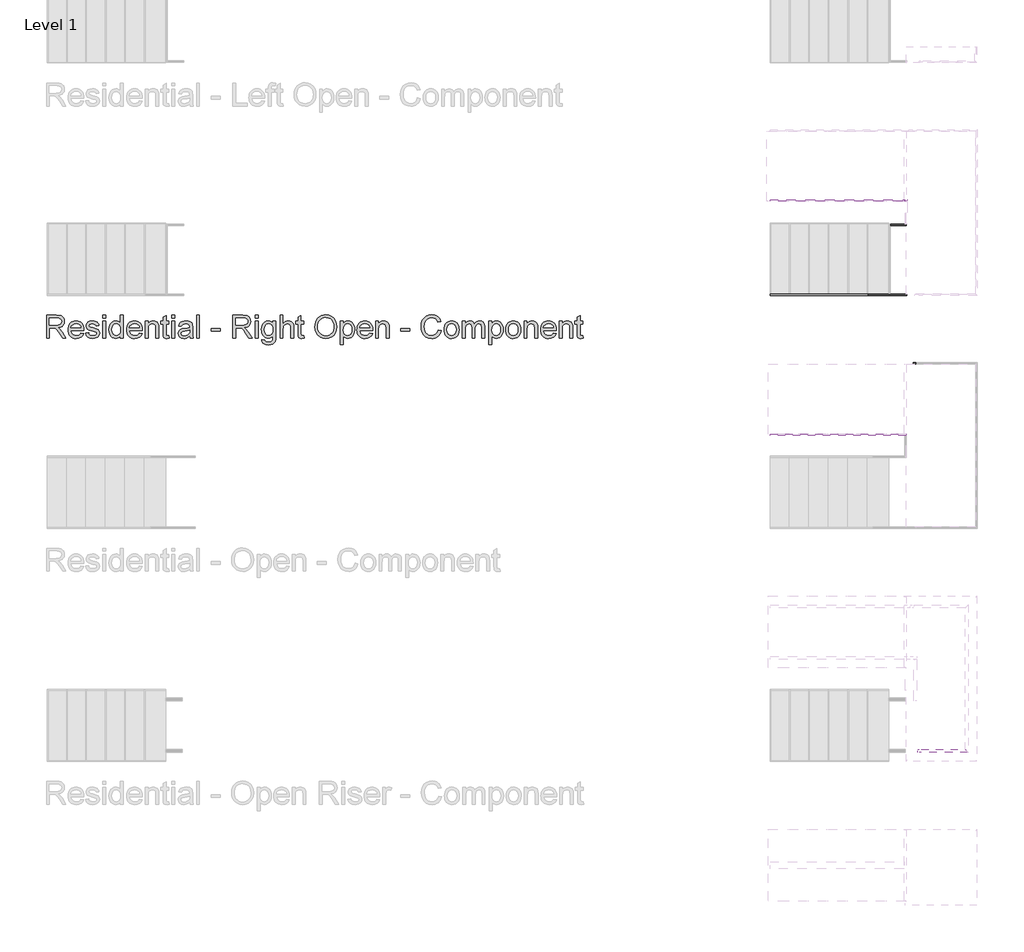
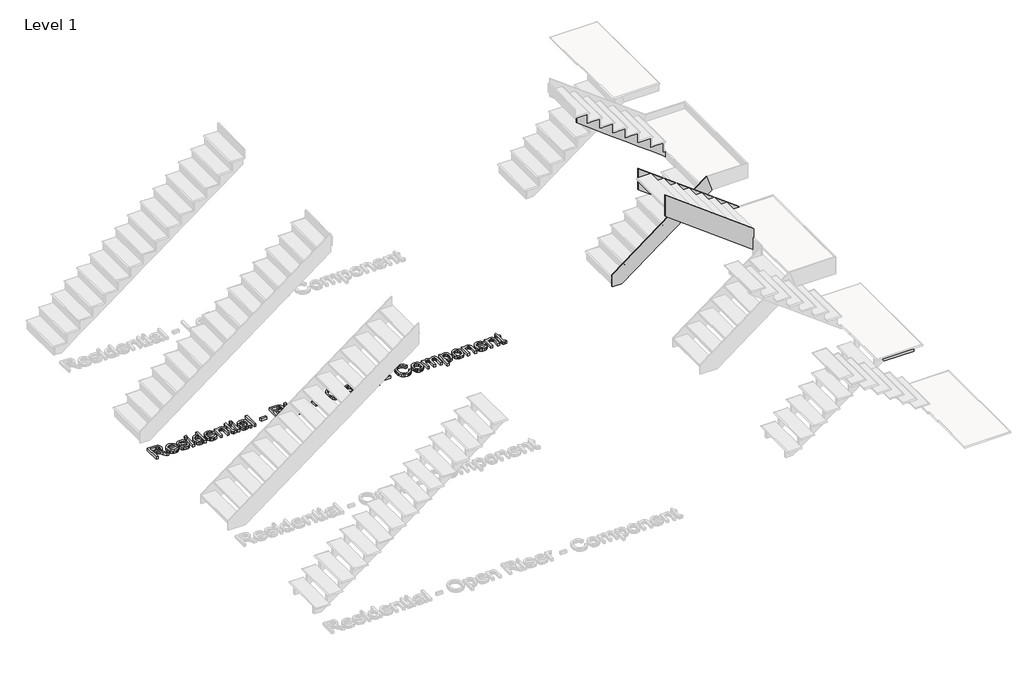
# One storey, part 8 of 26: 6 members, 1 proxy.
"""IFC4 building model written with IfcOpenShell, lengths in millimetres."""

from ifc_helpers import new_model, si_unit, frame, origin, origin_with_axes, place, context, project, spatial, polyline, outline, extrude, faceted_brep, element, save

model = new_model("IFC4")

# Units and contexts
model_context = context("Model", 3, world=origin())
ifc_project = project(units=[si_unit("LENGTHUNIT", "METRE", prefix="MILLI")], contexts=[model_context])

# Site, building, storey
site = spatial("IfcSite", under=ifc_project)
building = spatial("IfcBuilding", under=site)
storey = spatial("IfcBuildingStorey", under=building, Name="Level 1", Elevation=0.0)

# Proxy
placement = place(None, origin())
element("IfcBuildingElementProxy", 1, Name="12\" Arial", ObjectType="12\" Arial", at=placement, inside=storey, context=model_context, shape_type="SweptSolid", body=[
    extrude(outline(polyline([(-27238.310174, -2715.1232123), (-27238.310174, -2415.012443), (-27108.9899817, -2415.012443), (-27074.2328904, -2417.0365055), (-27048.9458471, -2423.108693), (-27030.4636837, -2434.3188854), (-27016.1212317, -2451.7569623), (-27006.9167846, -2473.380544), (-27003.8486356, -2497.1472507), (-27008.9316885, -2526.7113854), (-27024.1808471, -2551.219943), (-27035.7321993, -2561.2074551), (-27050.0540442, -2569.1892219), (-27087.0092125, -2579.13552), (-27065.6878664, -2595.1814815), (-27035.2811356, -2633.7943661), (-26985.238251, -2715.1232123), (-27028.8334433, -2715.1232123), (-27067.8859433, -2652.9176354), (-27096.0945971, -2611.7403277), (-27115.913924, -2592.2873469), (-27133.7549817, -2585.1435969), (-27155.5159433, -2583.8247507), (-27200.7963279, -2583.8247507), (-27200.7963279, -2715.1232123), (-27238.310174, -2715.1232123)]), holes=[polyline([(-27200.7963279, -2546.3109046), (-27116.8297894, -2546.3109046), (-27092.7150539, -2544.9828998), (-27074.003924, -2540.9988854), (-27059.9179144, -2534.0932604), (-27049.6785394, -2524.0004238), (-27043.4414962, -2511.7919382), (-27041.3624817, -2498.5393661), (-27045.3281789, -2480.2403757), (-27057.2252702, -2465.494943), (-27077.6948615, -2455.7684527), (-27107.3780587, -2452.5262892), (-27200.7963279, -2452.5262892), (-27200.7963279, -2546.3109046)])]), origin_with_axes(), (0.0, 0.0, 1.0), 50.8),
    extrude(outline(polyline([(-26788.5836356, -2649.4739815), (-26751.8024817, -2654.1632123), (-26765.0550539, -2681.8772988), (-26786.2023856, -2702.5941738), (-26814.7682269, -2715.5078757), (-26850.2763279, -2719.812443), (-26873.5530466, -2717.955526), (-26894.2928183, -2712.3847748), (-26912.4956428, -2703.1001894), (-26928.1615202, -2690.10177), (-26940.7592486, -2673.7512832), (-26949.757626, -2654.4104959), (-26955.1566524, -2632.0794082), (-26956.9563279, -2606.75802), (-26955.1383351, -2580.5780079), (-26949.6843567, -2557.5027796), (-26940.5943928, -2537.5323349), (-26927.8684433, -2520.6666738), (-26912.2437798, -2507.2675632), (-26894.457674, -2497.69677), (-26874.510126, -2491.954294), (-26852.4011356, -2490.0401354), (-26831.0042305, -2491.9497147), (-26811.6542846, -2497.6784527), (-26794.3512978, -2507.2263493), (-26779.0952702, -2520.5934046), (-26766.6417906, -2537.422431), (-26757.7464481, -2557.3562411), (-26752.4092426, -2580.3948349), (-26750.630174, -2606.5382123), (-26750.8499817, -2616.6493661), (-26919.4424817, -2616.6493661), (-26912.9489962, -2644.7297988), (-26897.8646933, -2665.3734046), (-26876.0945731, -2678.0672988), (-26849.5436356, -2682.2985969), (-26829.5777702, -2680.338645), (-26812.7624817, -2674.4587892), (-26799.0977702, -2664.2926834), (-26788.5836356, -2649.4739815)]), holes=[polyline([(-26919.4424817, -2579.13552), (-26788.1440202, -2579.13552), (-26793.2179144, -2559.316193), (-26803.1642125, -2545.1385969), (-26825.0350779, -2531.9501354), (-26852.547674, -2527.5539815), (-26877.8347173, -2531.0617459), (-26898.743924, -2541.5850392), (-26913.2787077, -2557.9881882), (-26919.4424817, -2579.13552)])]), origin_with_axes(), (0.0, 0.0, 1.0), 50.8),
    extrude(outline(polyline([(-26727.1840202, -2649.4739815), (-26689.670174, -2644.7847507), (-26683.7536837, -2660.8307123), (-26672.3053664, -2672.6270584), (-26655.2519529, -2679.8807123), (-26632.520174, -2682.2985969), (-26610.0631548, -2680.0822027), (-26594.2736356, -2673.43302), (-26584.9318087, -2663.7981161), (-26581.8178664, -2652.6245584), (-26584.950126, -2643.0629238), (-26594.3469048, -2635.7726354), (-26632.9597894, -2625.0753277), (-26689.4503664, -2606.7213854), (-26703.747025, -2597.4986209), (-26714.1054625, -2585.2901354), (-26720.3974577, -2570.8744142), (-26722.4947894, -2555.029943), (-26720.8095971, -2540.4951594), (-26715.7540202, -2527.0777315), (-26707.7859914, -2515.3088613), (-26697.3634433, -2505.7197507), (-26673.5143087, -2494.6194623), (-26641.2392125, -2490.0401354), (-26616.8222414, -2491.8810248), (-26595.5924817, -2497.403693), (-26578.520751, -2506.0677796), (-26566.5778664, -2517.3329238), (-26558.6647894, -2532.0325632), (-26553.6824817, -2551.0001354), (-26591.1963279, -2555.6893661), (-26595.9313519, -2543.8838613), (-26605.3006548, -2534.9908084), (-26619.3958231, -2529.4131882), (-26638.3084433, -2527.5539815), (-26659.8495971, -2529.3307604), (-26674.2103664, -2534.6610969), (-26682.288299, -2542.3543661), (-26684.9809433, -2551.219943), (-26680.5115202, -2562.1370584), (-26666.5170971, -2570.4164815), (-26634.2053664, -2578.4028277), (-26579.1435394, -2596.0607123), (-26564.5995971, -2604.5049911), (-26553.5725779, -2616.0632123), (-26546.6211596, -2630.7720104), (-26544.3040202, -2648.66802), (-26547.0241404, -2667.1685007), (-26555.184501, -2684.569943), (-26568.4737077, -2699.5077075), (-26586.5803664, -2710.6171546), (-26608.4512317, -2717.5136209), (-26633.0330587, -2719.812443), (-26670.858299, -2715.3796546), (-26698.4624817, -2702.0812892), (-26716.8896933, -2680.0638854), (-26727.1840202, -2649.4739815)])), origin_with_axes(), (0.0, 0.0, 1.0), 50.8),
    extrude(outline(polyline([(-26502.1009433, -2715.1232123), (-26502.1009433, -2494.7293661), (-26464.5870971, -2494.7293661), (-26464.5870971, -2715.1232123), (-26502.1009433, -2715.1232123)])), origin_with_axes(), (0.0, 0.0, 1.0), 50.8),
    extrude(outline(polyline([(-26502.1009433, -2452.5262892), (-26502.1009433, -2415.012443), (-26464.5870971, -2415.012443), (-26464.5870971, -2452.5262892), (-26502.1009433, -2452.5262892)])), origin_with_axes(), (0.0, 0.0, 1.0), 50.8),
    extrude(outline(polyline([(-26272.3286356, -2715.1232123), (-26272.3286356, -2679.7341738), (-26283.5525659, -2697.2684166), (-26297.1485875, -2709.7928757), (-26313.1167005, -2717.3075512), (-26331.4569048, -2719.812443), (-26355.7090202, -2716.1856161), (-26377.9095971, -2705.3051354), (-26396.7031548, -2687.931169), (-26410.7342125, -2664.8238854), (-26419.4715683, -2636.9174671), (-26422.3840202, -2605.1460969), (-26419.7005346, -2573.7685488), (-26411.6500779, -2545.4316738), (-26398.2418087, -2521.747395), (-26379.4848856, -2504.3276354), (-26356.7989, -2493.6120104), (-26331.6034433, -2490.0401354), (-26313.249501, -2492.5953998), (-26297.0203664, -2500.261193), (-26283.2640683, -2512.0117459), (-26272.3286356, -2526.8212892), (-26272.3286356, -2415.012443), (-26234.8147894, -2415.012443), (-26234.8147894, -2715.1232123), (-26272.3286356, -2715.1232123)]), holes=[polyline([(-26384.870174, -2604.9995584), (-26380.638876, -2638.9323709), (-26367.9449817, -2663.0654238), (-26349.4994529, -2677.4903036), (-26328.013251, -2682.2985969), (-26306.5362077, -2677.7101113), (-26288.5577702, -2663.9446546), (-26276.3859192, -2640.7457844), (-26272.3286356, -2607.8570584), (-26276.4591885, -2571.9001834), (-26288.8508471, -2546.9703277), (-26307.2872173, -2532.408068), (-26329.5519048, -2527.5539815), (-26351.2579144, -2532.2157363), (-26369.0440202, -2546.2010007), (-26380.9136356, -2570.2241498), (-26384.870174, -2604.9995584)])]), origin_with_axes(), (0.0, 0.0, 1.0), 50.8),
    extrude(outline(polyline([(-26024.2390202, -2649.4739815), (-25987.4578664, -2654.1632123), (-26000.7104385, -2681.8772988), (-26021.8577702, -2702.5941738), (-26050.4236115, -2715.5078757), (-26085.9317125, -2719.812443), (-26109.2084313, -2717.955526), (-26129.9482029, -2712.3847748), (-26148.1510274, -2703.1001894), (-26163.8169048, -2690.10177), (-26176.4146332, -2673.7512832), (-26185.4130106, -2654.4104959), (-26190.812037, -2632.0794082), (-26192.6117125, -2606.75802), (-26190.7937197, -2580.5780079), (-26185.3397414, -2557.5027796), (-26176.2497774, -2537.5323349), (-26163.5238279, -2520.6666738), (-26147.8991644, -2507.2675632), (-26130.1130587, -2497.69677), (-26110.1655106, -2491.954294), (-26088.0565202, -2490.0401354), (-26066.6596152, -2491.9497147), (-26047.3096692, -2497.6784527), (-26030.0066825, -2507.2263493), (-26014.7506548, -2520.5934046), (-26002.2971753, -2537.422431), (-25993.4018327, -2557.3562411), (-25988.0646272, -2580.3948349), (-25986.2855587, -2606.5382123), (-25986.5053664, -2616.6493661), (-26155.0978664, -2616.6493661), (-26148.6043808, -2644.7297988), (-26133.5200779, -2665.3734046), (-26111.7499577, -2678.0672988), (-26085.1990202, -2682.2985969), (-26065.2331548, -2680.338645), (-26048.4178664, -2674.4587892), (-26034.7531548, -2664.2926834), (-26024.2390202, -2649.4739815)]), holes=[polyline([(-26155.0978664, -2579.13552), (-26023.7994048, -2579.13552), (-26028.873299, -2559.316193), (-26038.8195971, -2545.1385969), (-26060.6904625, -2531.9501354), (-26088.2030587, -2527.5539815), (-26113.4901019, -2531.0617459), (-26134.3993087, -2541.5850392), (-26148.9340923, -2557.9881882), (-26155.0978664, -2579.13552)])]), origin_with_axes(), (0.0, 0.0, 1.0), 50.8),
    extrude(outline(polyline([(-25948.7717125, -2715.1232123), (-25948.7717125, -2494.7293661), (-25911.2578664, -2494.7293661), (-25911.2578664, -2525.502443), (-25898.2251019, -2509.9876834), (-25882.5729625, -2498.9057123), (-25864.3014481, -2492.2565296), (-25843.4105587, -2490.0401354), (-25824.9192365, -2491.8260729), (-25807.9848856, -2497.1838854), (-25793.8622414, -2505.4449911), (-25783.8060394, -2515.9408084), (-25772.5592125, -2543.5266738), (-25770.5809433, -2579.794943), (-25770.5809433, -2715.1232123), (-25808.0947894, -2715.1232123), (-25808.0947894, -2584.85052), (-25812.417674, -2551.6595584), (-25818.398275, -2541.7773709), (-25827.6943087, -2534.1115777), (-25839.6097173, -2529.1933805), (-25853.4484433, -2527.5539815), (-25875.4200539, -2531.2357604), (-25894.149501, -2542.2810969), (-25901.6344108, -2551.2977916), (-25906.980775, -2563.6207604), (-25911.2578664, -2598.18552), (-25911.2578664, -2715.1232123), (-25948.7717125, -2715.1232123)])), origin_with_axes(), (0.0, 0.0, 1.0), 50.8),
    extrude(outline(polyline([(-25639.2824817, -2683.8372507), (-25634.593251, -2716.2222507), (-25662.6553664, -2719.812443), (-25680.6612798, -2718.2554719), (-25694.0878664, -2713.5845584), (-25703.5762317, -2706.3858565), (-25709.7674817, -2697.24552), (-25713.174501, -2681.5475873), (-25714.310174, -2654.6760969), (-25714.310174, -2532.2432123), (-25742.4455587, -2532.2432123), (-25742.4455587, -2494.7293661), (-25714.310174, -2494.7293661), (-25714.310174, -2441.1695584), (-25676.7963279, -2419.11552), (-25676.7963279, -2494.7293661), (-25639.2824817, -2494.7293661), (-25639.2824817, -2532.2432123), (-25676.7963279, -2532.2432123), (-25676.7963279, -2653.5770584), (-25674.8180587, -2672.9201354), (-25668.407001, -2679.7708084), (-25655.6215202, -2682.2985969), (-25639.2824817, -2683.8372507)])), origin_with_axes(), (0.0, 0.0, 1.0), 50.8),
    extrude(outline(polyline([(-25601.7686356, -2715.1232123), (-25601.7686356, -2494.7293661), (-25564.2547894, -2494.7293661), (-25564.2547894, -2715.1232123), (-25601.7686356, -2715.1232123)])), origin_with_axes(), (0.0, 0.0, 1.0), 50.8),
    extrude(outline(polyline([(-25601.7686356, -2452.5262892), (-25601.7686356, -2415.012443), (-25564.2547894, -2415.012443), (-25564.2547894, -2452.5262892), (-25601.7686356, -2452.5262892)])), origin_with_axes(), (0.0, 0.0, 1.0), 50.8),
    extrude(outline(polyline([(-25367.3070971, -2686.9878277), (-25385.2305827, -2702.3560488), (-25403.6852702, -2712.4122507), (-25423.0924577, -2717.962395), (-25443.8734433, -2719.812443), (-25475.2235154, -2715.3613373), (-25498.3491164, -2702.00802), (-25512.6091404, -2681.7307604), (-25517.3624817, -2656.5078277), (-25515.5673856, -2640.9564334), (-25510.1820971, -2626.8337892), (-25501.8751981, -2614.7443661), (-25491.3152702, -2605.2926354), (-25465.048251, -2592.9834046), (-25432.5899817, -2587.3416738), (-25394.2335394, -2581.4068661), (-25367.5269048, -2574.4462892), (-25367.3070971, -2566.0935969), (-25369.8898375, -2549.3515777), (-25377.6380587, -2538.3978277), (-25394.9662317, -2530.264943), (-25419.1084433, -2527.5539815), (-25441.4555587, -2529.3582363), (-25457.0619048, -2534.7710007), (-25467.7042606, -2544.7814094), (-25475.1594048, -2560.3785969), (-25512.673251, -2555.6893661), (-25506.1614481, -2535.1739815), (-25496.4441164, -2519.0547507), (-25482.614549, -2506.7272027), (-25463.7660394, -2497.5868661), (-25440.7137077, -2491.926818), (-25414.272674, -2490.0401354), (-25388.9123615, -2491.7070104), (-25368.8091164, -2496.7076354), (-25353.6515442, -2504.2268902), (-25343.128251, -2513.4496546), (-25336.1493567, -2524.8521786), (-25331.6249817, -2538.9107123), (-25329.793251, -2571.7353277), (-25329.793251, -2618.4078277), (-25327.888251, -2683.5808084), (-25320.4147894, -2715.1232123), (-25357.9286356, -2715.1232123), (-25367.3070971, -2686.9878277)]), holes=[polyline([(-25367.3070971, -2611.9601354), (-25427.8274817, -2623.4634046), (-25460.1025779, -2629.5447507), (-25474.7197894, -2639.4360969), (-25479.8486356, -2653.8701354), (-25477.0552462, -2665.0253757), (-25468.6750779, -2674.1657123), (-25454.8913039, -2680.2653757), (-25435.8870971, -2682.2985969), (-25415.7380587, -2680.0547267), (-25397.9336356, -2673.3231161), (-25383.4995971, -2663.404294), (-25373.4617125, -2651.5987892), (-25369.0106067, -2639.4360969), (-25367.5269048, -2622.5841738), (-25367.3070971, -2611.9601354)])]), origin_with_axes(), (0.0, 0.0, 1.0), 50.8),
    extrude(outline(polyline([(-25278.2117125, -2715.1232123), (-25278.2117125, -2415.012443), (-25240.6978664, -2415.012443), (-25240.6978664, -2715.1232123), (-25278.2117125, -2715.1232123)])), origin_with_axes(), (0.0, 0.0, 1.0), 50.8),
    extrude(outline(polyline([(-25085.953251, -2626.0278277), (-25085.953251, -2588.5139815), (-24968.7224817, -2588.5139815), (-24968.7224817, -2626.0278277), (-25085.953251, -2626.0278277)])), origin_with_axes(), (0.0, 0.0, 1.0), 50.8),
    extrude(outline(polyline([(-24804.5994048, -2715.1232123), (-24804.5994048, -2415.012443), (-24675.2792125, -2415.012443), (-24640.5221212, -2417.0365055), (-24615.2350779, -2423.108693), (-24596.7529144, -2434.3188854), (-24582.4104625, -2451.7569623), (-24573.2060154, -2473.380544), (-24570.1378664, -2497.1472507), (-24575.2209192, -2526.7113854), (-24590.4700779, -2551.219943), (-24602.0214301, -2561.2074551), (-24616.343275, -2569.1892219), (-24653.2984433, -2579.13552), (-24631.9770971, -2595.1814815), (-24601.5703664, -2633.7943661), (-24551.5274817, -2715.1232123), (-24595.122674, -2715.1232123), (-24634.175174, -2652.9176354), (-24662.3838279, -2611.7403277), (-24682.2031548, -2592.2873469), (-24700.0442125, -2585.1435969), (-24721.805174, -2583.8247507), (-24767.0855587, -2583.8247507), (-24767.0855587, -2715.1232123), (-24804.5994048, -2715.1232123)]), holes=[polyline([(-24767.0855587, -2546.3109046), (-24683.1190202, -2546.3109046), (-24659.0042846, -2544.9828998), (-24640.2931548, -2540.9988854), (-24626.2071452, -2534.0932604), (-24615.9677702, -2524.0004238), (-24609.7307269, -2511.7919382), (-24607.6517125, -2498.5393661), (-24611.6174096, -2480.2403757), (-24623.514501, -2465.494943), (-24643.9840923, -2455.7684527), (-24673.6672894, -2452.5262892), (-24767.0855587, -2452.5262892), (-24767.0855587, -2546.3109046)])]), origin_with_axes(), (0.0, 0.0, 1.0), 50.8),
    extrude(outline(polyline([(-24509.1778664, -2715.1232123), (-24509.1778664, -2494.7293661), (-24471.6640202, -2494.7293661), (-24471.6640202, -2715.1232123), (-24509.1778664, -2715.1232123)])), origin_with_axes(), (0.0, 0.0, 1.0), 50.8),
    extrude(outline(polyline([(-24509.1778664, -2452.5262892), (-24509.1778664, -2415.012443), (-24471.6640202, -2415.012443), (-24471.6640202, -2452.5262892), (-24509.1778664, -2452.5262892)])), origin_with_axes(), (0.0, 0.0, 1.0), 50.8),
    extrude(outline(polyline([(-24424.7717125, -2733.8801354), (-24387.2578664, -2738.5693661), (-24383.1181548, -2750.292443), (-24375.095174, -2758.3520584), (-24359.3239721, -2764.6165777), (-24338.6803664, -2766.7047507), (-24316.6629625, -2764.341818), (-24300.2872894, -2757.25302), (-24288.9305587, -2745.8962892), (-24281.9699817, -2730.7295584), (-24279.4055587, -2686.9878277), (-24291.8888039, -2699.2970584), (-24305.8191164, -2708.0893661), (-24321.1964962, -2713.3647507), (-24338.0209433, -2715.1232123), (-24358.5889902, -2713.0762531), (-24376.6979385, -2706.9353757), (-24392.3477882, -2696.7005801), (-24405.5385394, -2682.3718661), (-24416.0045911, -2665.1810729), (-24423.4803423, -2646.3600392), (-24427.965793, -2625.9087652), (-24429.4609433, -2603.8272507), (-24426.7774577, -2573.5395825), (-24418.727001, -2545.6881161), (-24405.5934914, -2522.0862652), (-24387.6608471, -2504.547443), (-24365.5426981, -2493.6669623), (-24339.852674, -2490.0401354), (-24322.3092726, -2492.0916738), (-24306.3869529, -2498.2462892), (-24292.0857149, -2508.5039815), (-24279.4055587, -2522.8647507), (-24279.4055587, -2494.7293661), (-24241.8917125, -2494.7293661), (-24241.8917125, -2685.0095584), (-24244.4561356, -2728.9436209), (-24252.1494048, -2757.8758084), (-24265.4019769, -2777.0631882), (-24284.6443087, -2791.7628277), (-24309.4551019, -2801.1046546), (-24339.4130587, -2804.2185969), (-24374.3166885, -2799.8316017), (-24401.8018087, -2786.6706161), (-24412.1533772, -2776.7907183), (-24419.4322173, -2764.6990055), (-24423.6383291, -2750.3954779), (-24424.7717125, -2733.8801354)]), holes=[polyline([(-24391.9470971, -2601.2628277), (-24387.9447654, -2635.6718902), (-24375.9377702, -2659.328693), (-24357.8860635, -2673.0391979), (-24335.7495971, -2677.6093661), (-24313.7779865, -2673.0666738), (-24295.6346933, -2659.4385969), (-24283.4628423, -2636.0840296), (-24279.4055587, -2602.3618661), (-24283.5819048, -2569.8394863), (-24296.1109433, -2546.4208084), (-24314.5198375, -2532.2706882), (-24336.335751, -2527.5539815), (-24357.7578423, -2532.197419), (-24375.7179625, -2546.1277315), (-24387.8898135, -2569.1983805), (-24391.9470971, -2601.2628277)])]), origin_with_axes(), (0.0, 0.0, 1.0), 50.8),
    extrude(outline(polyline([(-24185.6209433, -2715.1232123), (-24185.6209433, -2415.012443), (-24148.1070971, -2415.012443), (-24148.1070971, -2525.3559046), (-24134.3279024, -2509.9052555), (-24118.8543567, -2498.8690777), (-24101.6864601, -2492.2473709), (-24082.8242125, -2490.0401354), (-24060.1657029, -2492.4488613), (-24040.6944048, -2499.6750392), (-24025.3628183, -2511.1508325), (-24015.1234433, -2526.3084046), (-24009.3534914, -2547.1351834), (-24007.430174, -2575.6185969), (-24007.430174, -2715.1232123), (-24044.9440202, -2715.1232123), (-24044.9440202, -2579.5018661), (-24047.9297414, -2556.0190777), (-24056.8869048, -2539.9364815), (-24071.3209433, -2530.6496065), (-24090.7372894, -2527.5539815), (-24106.5909192, -2529.6421546), (-24121.4737317, -2535.9066738), (-24133.8012798, -2545.743068), (-24141.9891164, -2558.5468661), (-24146.5776019, -2575.563645), (-24148.1070971, -2598.0389815), (-24148.1070971, -2715.1232123), (-24185.6209433, -2715.1232123)])), origin_with_axes(), (0.0, 0.0, 1.0), 50.8),
    extrude(outline(polyline([(-23876.1317125, -2683.8372507), (-23871.4424817, -2716.2222507), (-23899.5045971, -2719.812443), (-23917.5105106, -2718.2554719), (-23930.9370971, -2713.5845584), (-23940.4254625, -2706.3858565), (-23946.6167125, -2697.24552), (-23950.0237317, -2681.5475873), (-23951.1594048, -2654.6760969), (-23951.1594048, -2532.2432123), (-23979.2947894, -2532.2432123), (-23979.2947894, -2494.7293661), (-23951.1594048, -2494.7293661), (-23951.1594048, -2441.1695584), (-23913.6455587, -2419.11552), (-23913.6455587, -2494.7293661), (-23876.1317125, -2494.7293661), (-23876.1317125, -2532.2432123), (-23913.6455587, -2532.2432123), (-23913.6455587, -2653.5770584), (-23911.6672894, -2672.9201354), (-23905.2562317, -2679.7708084), (-23892.470751, -2682.2985969), (-23876.1317125, -2683.8372507)])), origin_with_axes(), (0.0, 0.0, 1.0), 50.8),
    extrude(outline(polyline([(-23730.7655587, -2569.0243661), (-23728.2652462, -2533.8230801), (-23720.7643087, -2502.6607604), (-23708.2627462, -2475.537407), (-23690.7605587, -2452.45302), (-23669.306412, -2434.0212291), (-23644.9489721, -2420.8556642), (-23617.688239, -2412.9563253), (-23587.5242125, -2410.3232123), (-23548.1603183, -2415.2688854), (-23512.8628664, -2430.1059046), (-23483.555174, -2453.7901834), (-23462.1605587, -2485.2776354), (-23449.082001, -2523.0479238), (-23444.7224817, -2565.5807123), (-23449.3109673, -2608.6813373), (-23463.076424, -2646.9828277), (-23485.2586837, -2678.5252315), (-23515.0975779, -2701.3485969), (-23550.0927942, -2715.1964815), (-23587.7440202, -2719.812443), (-23627.7123856, -2714.7110729), (-23663.2113279, -2699.4069623), (-23692.445751, -2675.283068), (-23713.6205587, -2643.7223469), (-23726.4793087, -2607.4082844), (-23730.7655587, -2569.0243661)]), holes=[polyline([(-23693.2517125, -2569.3907123), (-23691.3764781, -2594.2610368), (-23685.750775, -2616.3379719), (-23676.3746031, -2635.6215176), (-23663.2479625, -2652.1116738), (-23647.2912978, -2665.3184527), (-23629.4250539, -2674.7518661), (-23609.6492305, -2680.4119142), (-23587.9638279, -2682.2985969), (-23565.9074998, -2680.3935969), (-23545.8981308, -2674.6785969), (-23527.9357209, -2665.1535969), (-23512.0202702, -2651.8185969), (-23498.9897954, -2634.9804118), (-23489.6823135, -2614.9458565), (-23484.0978243, -2591.714931), (-23482.2363279, -2565.2876354), (-23485.4235394, -2532.0783565), (-23494.985174, -2503.3751354), (-23510.6739481, -2479.9015055), (-23532.2425779, -2462.3810007), (-23558.2623135, -2451.473044), (-23587.3044048, -2447.8370584), (-23608.2365082, -2449.588651), (-23627.6574337, -2454.8434286), (-23645.5671813, -2463.6013914), (-23661.965751, -2475.8625392), (-23675.6533591, -2492.2176053), (-23685.4302221, -2513.2573229), (-23691.2963399, -2538.9816918), (-23693.2517125, -2569.3907123)])]), origin_with_axes(), (0.0, 0.0, 1.0), 50.8),
    extrude(outline(polyline([(-23397.830174, -2799.5293661), (-23397.830174, -2494.7293661), (-23360.3163279, -2494.7293661), (-23360.3163279, -2531.51052), (-23348.0803664, -2513.3672267), (-23334.3790202, -2500.4077315), (-23318.4063279, -2492.6320344), (-23299.3563279, -2490.0401354), (-23273.9868567, -2493.6669623), (-23251.8045971, -2504.547443), (-23233.7437317, -2522.0221546), (-23220.7384433, -2545.4316738), (-23212.8803183, -2573.0724911), (-23210.2609433, -2603.2410969), (-23213.2191885, -2635.3238613), (-23222.093924, -2664.0179238), (-23236.6012317, -2687.8670584), (-23256.4571933, -2705.4150392), (-23279.5827942, -2716.2130921), (-23303.8990202, -2719.812443), (-23321.1447654, -2717.4037171), (-23336.5404625, -2710.1775392), (-23349.7197654, -2699.2695825), (-23360.3163279, -2685.81552), (-23360.3163279, -2799.5293661), (-23397.830174, -2799.5293661)]), holes=[polyline([(-23360.3163279, -2606.6847507), (-23356.2590442, -2640.3153277), (-23344.0871933, -2663.8347507), (-23326.1270731, -2677.6826354), (-23304.7049817, -2682.2985969), (-23282.9348615, -2677.5177796), (-23264.5168087, -2663.1753277), (-23251.9602942, -2638.7949911), (-23247.7747894, -2603.90052), (-23251.859549, -2570.4531161), (-23264.1138279, -2546.6039815), (-23282.0464721, -2532.3164815), (-23303.1663279, -2527.5539815), (-23324.3686115, -2532.6187171), (-23342.9881548, -2547.8129238), (-23355.9842846, -2572.6603517), (-23360.3163279, -2606.6847507)])]), origin_with_axes(), (0.0, 0.0, 1.0), 50.8),
    extrude(outline(polyline([(-23013.7528664, -2649.4739815), (-22976.9717125, -2654.1632123), (-22990.2242846, -2681.8772988), (-23011.3716164, -2702.5941738), (-23039.9374577, -2715.5078757), (-23075.4455587, -2719.812443), (-23098.7222774, -2717.955526), (-23119.462049, -2712.3847748), (-23137.6648736, -2703.1001894), (-23153.330751, -2690.10177), (-23165.9284793, -2673.7512832), (-23174.9268567, -2654.4104959), (-23180.3258832, -2632.0794082), (-23182.1255587, -2606.75802), (-23180.3075659, -2580.5780079), (-23174.8535875, -2557.5027796), (-23165.7636236, -2537.5323349), (-23153.037674, -2520.6666738), (-23137.4130106, -2507.2675632), (-23119.6269048, -2497.69677), (-23099.6793567, -2491.954294), (-23077.5703664, -2490.0401354), (-23056.1734613, -2491.9497147), (-23036.8235154, -2497.6784527), (-23019.5205286, -2507.2263493), (-23004.264501, -2520.5934046), (-22991.8110214, -2537.422431), (-22982.9156789, -2557.3562411), (-22977.5784733, -2580.3948349), (-22975.7994048, -2606.5382123), (-22976.0192125, -2616.6493661), (-23144.6117125, -2616.6493661), (-23138.1182269, -2644.7297988), (-23123.033924, -2665.3734046), (-23101.2638039, -2678.0672988), (-23074.7128664, -2682.2985969), (-23054.747001, -2680.338645), (-23037.9317125, -2674.4587892), (-23024.267001, -2664.2926834), (-23013.7528664, -2649.4739815)]), holes=[polyline([(-23144.6117125, -2579.13552), (-23013.313251, -2579.13552), (-23018.3871452, -2559.316193), (-23028.3334433, -2545.1385969), (-23050.2043087, -2531.9501354), (-23077.7169048, -2527.5539815), (-23103.0039481, -2531.0617459), (-23123.9131548, -2541.5850392), (-23138.4479385, -2557.9881882), (-23144.6117125, -2579.13552)])]), origin_with_axes(), (0.0, 0.0, 1.0), 50.8),
    extrude(outline(polyline([(-22938.2855587, -2715.1232123), (-22938.2855587, -2494.7293661), (-22900.7717125, -2494.7293661), (-22900.7717125, -2525.502443), (-22887.7389481, -2509.9876834), (-22872.0868087, -2498.9057123), (-22853.8152942, -2492.2565296), (-22832.9244048, -2490.0401354), (-22814.4330827, -2491.8260729), (-22797.4987317, -2497.1838854), (-22783.3760875, -2505.4449911), (-22773.3198856, -2515.9408084), (-22762.0730587, -2543.5266738), (-22760.0947894, -2579.794943), (-22760.0947894, -2715.1232123), (-22797.6086356, -2715.1232123), (-22797.6086356, -2584.85052), (-22801.9315202, -2551.6595584), (-22807.9121212, -2541.7773709), (-22817.2081548, -2534.1115777), (-22829.1235635, -2529.1933805), (-22842.9622894, -2527.5539815), (-22864.9339, -2531.2357604), (-22883.6633471, -2542.2810969), (-22891.148257, -2551.2977916), (-22896.4946212, -2563.6207604), (-22900.7717125, -2598.18552), (-22900.7717125, -2715.1232123), (-22938.2855587, -2715.1232123)])), origin_with_axes(), (0.0, 0.0, 1.0), 50.8),
    extrude(outline(polyline([(-22610.0394048, -2626.0278277), (-22610.0394048, -2588.5139815), (-22492.8086356, -2588.5139815), (-22492.8086356, -2626.0278277), (-22610.0394048, -2626.0278277)])), origin_with_axes(), (0.0, 0.0, 1.0), 50.8),
    extrude(outline(polyline([(-22117.670174, -2608.4432123), (-22080.1563279, -2618.1147507), (-22087.5794168, -2641.4441317), (-22097.4661837, -2661.8290055), (-22109.8166284, -2679.2693721), (-22124.630751, -2693.7652315), (-22141.5742606, -2705.1608866), (-22160.3128664, -2713.3006402), (-22180.8465683, -2718.1844923), (-22203.1753664, -2719.812443), (-22246.6881308, -2714.8850873), (-22281.2437317, -2700.10302), (-22307.7305587, -2675.9791257), (-22327.037001, -2643.0262892), (-22338.8241885, -2604.2851834), (-22342.753251, -2562.7964815), (-22338.3113039, -2519.0364334), (-22324.9854625, -2481.2478277), (-22303.4717846, -2450.6304479), (-22274.4663279, -2428.3840777), (-22240.066424, -2414.8384286), (-22202.3694048, -2410.3232123), (-22161.2378904, -2416.1664334), (-22143.3441704, -2423.4704599), (-22127.2318087, -2433.6960969), (-22113.166406, -2446.5731642), (-22101.4135635, -2461.8314815), (-22084.8455587, -2499.4918661), (-22122.3594048, -2508.4307123), (-22135.3646933, -2481.0738132), (-22153.1324817, -2462.3077315), (-22175.8825779, -2451.4547267), (-22203.8347894, -2447.8370584), (-22236.0549337, -2451.8485488), (-22262.5234433, -2463.88302), (-22282.6083712, -2482.6765777), (-22295.6777702, -2506.9653277), (-22302.8489962, -2534.4229719), (-22305.2394048, -2562.7232123), (-22302.4093808, -2597.3795584), (-22293.9193087, -2627.3466738), (-22279.4486356, -2651.4797267), (-22258.6768087, -2668.6338854), (-22233.7744289, -2678.882419), (-22206.9120971, -2682.2985969), (-22175.5986596, -2677.6460007), (-22149.5056548, -2663.6882123), (-22129.8053904, -2640.57177), (-22117.670174, -2608.4432123)])), origin_with_axes(), (0.0, 0.0, 1.0), 50.8),
    extrude(outline(polyline([(-22042.6424817, -2604.9262892), (-22040.6138399, -2576.3833445), (-22034.5279144, -2551.7877796), (-22024.3847053, -2531.1395945), (-22010.1842125, -2514.4387892), (-21995.8875539, -2503.7643781), (-21980.1071933, -2496.1397988), (-21962.8431308, -2491.5650512), (-21944.0953664, -2490.0401354), (-21923.3990983, -2491.8970524), (-21904.6856789, -2497.4678036), (-21887.9551079, -2506.752389), (-21873.2073856, -2519.7508084), (-21861.1706248, -2536.0234466), (-21852.5729385, -2555.1306882), (-21847.4143267, -2577.0725332), (-21845.6947894, -2601.8489815), (-21848.7354625, -2639.7474911), (-21857.8574817, -2668.5972507), (-21872.7952462, -2690.2025152), (-21893.2831548, -2706.3675392), (-21917.6176981, -2716.4512171), (-21944.0953664, -2719.812443), (-21965.09387, -2717.962395), (-21983.9813039, -2712.4122507), (-22000.757668, -2703.1620104), (-22015.4229625, -2690.2116738), (-22027.3315022, -2673.7810488), (-22035.8376019, -2654.089943), (-22040.9412618, -2631.1383565), (-22042.6424817, -2604.9262892)]), holes=[polyline([(-22005.1286356, -2604.85302), (-22000.7874337, -2638.8041498), (-21987.7638279, -2662.9921546), (-21968.1643087, -2677.4719863), (-21944.0953664, -2682.2985969), (-21920.1363279, -2677.4445104), (-21900.5734433, -2662.8822507), (-21887.5498375, -2638.373693), (-21883.2086356, -2603.6807123), (-21887.5773135, -2570.7187171), (-21900.6833471, -2546.8604238), (-21920.2737077, -2532.3805921), (-21944.0953664, -2527.5539815), (-21968.1643087, -2532.3622748), (-21987.7638279, -2546.7871546), (-22000.7874337, -2570.9202075), (-22005.1286356, -2604.85302)])]), origin_with_axes(), (0.0, 0.0, 1.0), 50.8),
    extrude(outline(polyline([(-21803.4917125, -2715.1232123), (-21803.4917125, -2494.7293661), (-21765.9778664, -2494.7293661), (-21765.9778664, -2530.9976354), (-21754.6944048, -2514.338044), (-21740.1870971, -2501.2869623), (-21722.9505106, -2492.8518421), (-21703.4792125, -2490.0401354), (-21682.615799, -2492.906794), (-21665.8920971, -2501.50677), (-21653.3996933, -2515.2722267), (-21645.230174, -2533.6353277), (-21631.5563039, -2514.562431), (-21615.9591164, -2500.9389334), (-21598.4386115, -2492.7648349), (-21578.9947894, -2490.0401354), (-21550.7952942, -2494.573669), (-21529.9410394, -2508.17427), (-21517.0548135, -2531.2082844), (-21512.7594048, -2564.0420584), (-21512.7594048, -2715.1232123), (-21550.273251, -2715.1232123), (-21550.273251, -2580.1612892), (-21553.7535394, -2548.838693), (-21558.6442606, -2540.2020825), (-21566.3558471, -2533.41552), (-21576.2746692, -2529.0193661), (-21587.7870971, -2527.5539815), (-21608.11015, -2531.3090296), (-21624.6781548, -2542.5741738), (-21635.6960154, -2562.1187411), (-21639.3686356, -2590.7120584), (-21639.3686356, -2715.1232123), (-21676.8824817, -2715.1232123), (-21676.8824817, -2575.984943), (-21679.0530827, -2554.7735007), (-21685.5648856, -2539.6434046), (-21697.0223615, -2530.5763373), (-21714.0299817, -2527.5539815), (-21728.4823375, -2529.5688854), (-21741.7990202, -2535.6135969), (-21752.7894048, -2545.5415777), (-21760.2628664, -2559.2062892), (-21764.5491164, -2578.1647027), (-21765.9778664, -2603.9737892), (-21765.9778664, -2715.1232123), (-21803.4917125, -2715.1232123)])), origin_with_axes(), (0.0, 0.0, 1.0), 50.8),
    extrude(outline(polyline([(-21456.4886356, -2799.5293661), (-21456.4886356, -2494.7293661), (-21418.9747894, -2494.7293661), (-21418.9747894, -2531.51052), (-21406.7388279, -2513.3672267), (-21393.0374817, -2500.4077315), (-21377.0647894, -2492.6320344), (-21358.0147894, -2490.0401354), (-21332.6453183, -2493.6669623), (-21310.4630587, -2504.547443), (-21292.4021933, -2522.0221546), (-21279.3969048, -2545.4316738), (-21271.5387798, -2573.0724911), (-21268.9194048, -2603.2410969), (-21271.87765, -2635.3238613), (-21280.7523856, -2664.0179238), (-21295.2596933, -2687.8670584), (-21315.1156548, -2705.4150392), (-21338.2412558, -2716.2130921), (-21362.5574817, -2719.812443), (-21379.8032269, -2717.4037171), (-21395.198924, -2710.1775392), (-21408.3782269, -2699.2695825), (-21418.9747894, -2685.81552), (-21418.9747894, -2799.5293661), (-21456.4886356, -2799.5293661)]), holes=[polyline([(-21418.9747894, -2606.6847507), (-21414.9175058, -2640.3153277), (-21402.7456548, -2663.8347507), (-21384.7855346, -2677.6826354), (-21363.3634433, -2682.2985969), (-21341.5933231, -2677.5177796), (-21323.1752702, -2663.1753277), (-21310.6187558, -2638.7949911), (-21306.433251, -2603.90052), (-21310.5180106, -2570.4531161), (-21322.7722894, -2546.6039815), (-21340.7049337, -2532.3164815), (-21361.8247894, -2527.5539815), (-21383.0270731, -2532.6187171), (-21401.6466164, -2547.8129238), (-21414.6427462, -2572.6603517), (-21418.9747894, -2606.6847507)])]), origin_with_axes(), (0.0, 0.0, 1.0), 50.8),
    extrude(outline(polyline([(-21236.0947894, -2604.9262892), (-21234.0661476, -2576.3833445), (-21227.9802221, -2551.7877796), (-21217.837013, -2531.1395945), (-21203.6365202, -2514.4387892), (-21189.3398615, -2503.7643781), (-21173.559501, -2496.1397988), (-21156.2954385, -2491.5650512), (-21137.547674, -2490.0401354), (-21116.851406, -2491.8970524), (-21098.1379865, -2497.4678036), (-21081.4074156, -2506.752389), (-21066.6596933, -2519.7508084), (-21054.6229325, -2536.0234466), (-21046.0252462, -2555.1306882), (-21040.8666344, -2577.0725332), (-21039.1470971, -2601.8489815), (-21042.1877702, -2639.7474911), (-21051.3097894, -2668.5972507), (-21066.2475539, -2690.2025152), (-21086.7354625, -2706.3675392), (-21111.0700058, -2716.4512171), (-21137.547674, -2719.812443), (-21158.5461777, -2717.962395), (-21177.4336115, -2712.4122507), (-21194.2099757, -2703.1620104), (-21208.8752702, -2690.2116738), (-21220.7838099, -2673.7810488), (-21229.2899096, -2654.089943), (-21234.3935695, -2631.1383565), (-21236.0947894, -2604.9262892)]), holes=[polyline([(-21198.5809433, -2604.85302), (-21194.2397414, -2638.8041498), (-21181.2161356, -2662.9921546), (-21161.6166164, -2677.4719863), (-21137.547674, -2682.2985969), (-21113.5886356, -2677.4445104), (-21094.025751, -2662.8822507), (-21081.0021452, -2638.373693), (-21076.6609433, -2603.6807123), (-21081.0296212, -2570.7187171), (-21094.1356548, -2546.8604238), (-21113.7260154, -2532.3805921), (-21137.547674, -2527.5539815), (-21161.6166164, -2532.3622748), (-21181.2161356, -2546.7871546), (-21194.2397414, -2570.9202075), (-21198.5809433, -2604.85302)])]), origin_with_axes(), (0.0, 0.0, 1.0), 50.8),
    extrude(outline(polyline([(-20996.9440202, -2715.1232123), (-20996.9440202, -2494.7293661), (-20959.430174, -2494.7293661), (-20959.430174, -2525.502443), (-20946.3974096, -2509.9876834), (-20930.7452702, -2498.9057123), (-20912.4737558, -2492.2565296), (-20891.5828664, -2490.0401354), (-20873.0915442, -2491.8260729), (-20856.1571933, -2497.1838854), (-20842.034549, -2505.4449911), (-20831.9783471, -2515.9408084), (-20820.7315202, -2543.5266738), (-20818.753251, -2579.794943), (-20818.753251, -2715.1232123), (-20856.2670971, -2715.1232123), (-20856.2670971, -2584.85052), (-20860.5899817, -2551.6595584), (-20866.5705827, -2541.7773709), (-20875.8666164, -2534.1115777), (-20887.782025, -2529.1933805), (-20901.620751, -2527.5539815), (-20923.5923615, -2531.2357604), (-20942.3218087, -2542.2810969), (-20949.8067185, -2551.2977916), (-20955.1530827, -2563.6207604), (-20959.430174, -2598.18552), (-20959.430174, -2715.1232123), (-20996.9440202, -2715.1232123)])), origin_with_axes(), (0.0, 0.0, 1.0), 50.8),
    extrude(outline(polyline([(-20612.8667125, -2649.4739815), (-20576.0855587, -2654.1632123), (-20589.3381308, -2681.8772988), (-20610.4854625, -2702.5941738), (-20639.0513039, -2715.5078757), (-20674.5594048, -2719.812443), (-20697.8361236, -2717.955526), (-20718.5758952, -2712.3847748), (-20736.7787197, -2703.1001894), (-20752.4445971, -2690.10177), (-20765.0423255, -2673.7512832), (-20774.0407029, -2654.4104959), (-20779.4397293, -2632.0794082), (-20781.2394048, -2606.75802), (-20779.421412, -2580.5780079), (-20773.9674337, -2557.5027796), (-20764.8774697, -2537.5323349), (-20752.1515202, -2520.6666738), (-20736.5268567, -2507.2675632), (-20718.740751, -2497.69677), (-20698.7932029, -2491.954294), (-20676.6842125, -2490.0401354), (-20655.2873075, -2491.9497147), (-20635.9373615, -2497.6784527), (-20618.6343748, -2507.2263493), (-20603.3783471, -2520.5934046), (-20590.9248676, -2537.422431), (-20582.029525, -2557.3562411), (-20576.6923195, -2580.3948349), (-20574.913251, -2606.5382123), (-20575.1330587, -2616.6493661), (-20743.7255587, -2616.6493661), (-20737.2320731, -2644.7297988), (-20722.1477702, -2665.3734046), (-20700.37765, -2678.0672988), (-20673.8267125, -2682.2985969), (-20653.8608471, -2680.338645), (-20637.0455587, -2674.4587892), (-20623.3808471, -2664.2926834), (-20612.8667125, -2649.4739815)]), holes=[polyline([(-20743.7255587, -2579.13552), (-20612.4270971, -2579.13552), (-20617.5009914, -2559.316193), (-20627.4472894, -2545.1385969), (-20649.3181548, -2531.9501354), (-20676.830751, -2527.5539815), (-20702.1177942, -2531.0617459), (-20723.027001, -2541.5850392), (-20737.5617846, -2557.9881882), (-20743.7255587, -2579.13552)])]), origin_with_axes(), (0.0, 0.0, 1.0), 50.8),
    extrude(outline(polyline([(-20537.3994048, -2715.1232123), (-20537.3994048, -2494.7293661), (-20499.8855587, -2494.7293661), (-20499.8855587, -2525.502443), (-20486.8527942, -2509.9876834), (-20471.2006548, -2498.9057123), (-20452.9291404, -2492.2565296), (-20432.038251, -2490.0401354), (-20413.5469289, -2491.8260729), (-20396.6125779, -2497.1838854), (-20382.4899337, -2505.4449911), (-20372.4337317, -2515.9408084), (-20361.1869048, -2543.5266738), (-20359.2086356, -2579.794943), (-20359.2086356, -2715.1232123), (-20396.7224817, -2715.1232123), (-20396.7224817, -2584.85052), (-20401.0453664, -2551.6595584), (-20407.0259673, -2541.7773709), (-20416.322001, -2534.1115777), (-20428.2374096, -2529.1933805), (-20442.0761356, -2527.5539815), (-20464.0477462, -2531.2357604), (-20482.7771933, -2542.2810969), (-20490.2621031, -2551.2977916), (-20495.6084673, -2563.6207604), (-20499.8855587, -2598.18552), (-20499.8855587, -2715.1232123), (-20537.3994048, -2715.1232123)])), origin_with_axes(), (0.0, 0.0, 1.0), 50.8),
    extrude(outline(polyline([(-20227.910174, -2683.8372507), (-20223.2209433, -2716.2222507), (-20251.2830587, -2719.812443), (-20269.2889721, -2718.2554719), (-20282.7155587, -2713.5845584), (-20292.203924, -2706.3858565), (-20298.395174, -2697.24552), (-20301.8021933, -2681.5475873), (-20302.9378664, -2654.6760969), (-20302.9378664, -2532.2432123), (-20331.073251, -2532.2432123), (-20331.073251, -2494.7293661), (-20302.9378664, -2494.7293661), (-20302.9378664, -2441.1695584), (-20265.4240202, -2419.11552), (-20265.4240202, -2494.7293661), (-20227.910174, -2494.7293661), (-20227.910174, -2532.2432123), (-20265.4240202, -2532.2432123), (-20265.4240202, -2653.5770584), (-20263.445751, -2672.9201354), (-20257.0346933, -2679.7708084), (-20244.2492125, -2682.2985969), (-20227.910174, -2683.8372507)])), origin_with_axes(), (0.0, 0.0, 1.0), 50.8),
])

# Members
element("IfcMember", 2, at=placement, inside=storey, context=model_context, shape_type="Brep", body=[
    faceted_brep([(-17737.5981446, -1225.6871906, 0.0), (-17597.8981446, -1225.6871906, 0.0), (-17597.8981446, -1244.7371906, 0.0), (-17737.5981446, -1244.7371906, 0.0), (-16004.0481446, -1244.7371906, 1195.3875), (-16004.0481446, -1244.7371906, 1308.1), (-16213.5981446, -1244.7371906, 1308.1), (-16213.5981446, -1244.7371906, 1117.6), (-16467.5981446, -1244.7371906, 1117.6), (-16467.5981446, -1244.7371906, 927.1), (-16721.5981446, -1244.7371906, 927.1), (-16721.5981446, -1244.7371906, 736.6), (-16975.5981446, -1244.7371906, 736.6), (-16975.5981446, -1244.7371906, 546.1), (-17229.5981446, -1244.7371906, 546.1), (-17229.5981446, -1244.7371906, 355.6), (-17483.5981446, -1244.7371906, 355.6), (-17483.5981446, -1244.7371906, 165.1), (-17737.5981446, -1244.7371906, 165.1), (-17737.5981446, -1225.6871906, 165.1), (-17483.5981446, -1225.6871906, 165.1), (-16004.0481446, -1225.6871906, 1308.1), (-16004.0481446, -1225.6871906, 1195.3875), (-16213.5981446, -1225.6871906, 1038.225), (-16467.5981446, -1225.6871906, 847.725), (-16721.5981446, -1225.6871906, 657.225), (-16975.5981446, -1225.6871906, 466.725), (-17229.5981446, -1225.6871906, 276.225), (-17483.5981446, -1225.6871906, 85.725), (-17483.5981446, -1225.6871906, 355.6), (-17229.5981446, -1225.6871906, 355.6), (-17229.5981446, -1225.6871906, 546.1), (-16975.5981446, -1225.6871906, 546.1), (-16975.5981446, -1225.6871906, 736.6), (-16721.5981446, -1225.6871906, 736.6), (-16721.5981446, -1225.6871906, 927.1), (-16467.5981446, -1225.6871906, 927.1), (-16467.5981446, -1225.6871906, 1117.6), (-16213.5981446, -1225.6871906, 1117.6), (-16213.5981446, -1225.6871906, 1308.1)], [[[0, 1, 2, 3]], [[2, 4, 5, 6, 7, 8, 9, 10, 11, 12, 13, 14, 15, 16, 17, 18, 3]], [[19, 18, 17, 20]], [[21, 22, 23, 24, 25, 26, 27, 28, 1, 0, 19, 20, 29, 30, 31, 32, 33, 34, 35, 36, 37, 38, 39]], [[18, 19, 0, 3]], [[29, 16, 15, 30]], [[20, 17, 16, 29]], [[31, 14, 13, 32]], [[30, 15, 14, 31]], [[33, 12, 11, 34]], [[32, 13, 12, 33]], [[35, 10, 9, 36]], [[34, 11, 10, 35]], [[37, 8, 7, 38]], [[36, 9, 8, 37]], [[39, 6, 5, 21]], [[38, 7, 6, 39]], [[4, 22, 21, 5]], [[22, 4, 2, 1, 28, 27, 26, 25, 24, 23]]]),
])
element("IfcMember", 3, at=placement, inside=storey, context=model_context, shape_type="SweptSolid", body=[
    extrude(outline(polyline([(242.8875, -17782.0481446), (0.0, -17782.0481446), (0.0, -17597.8981446), (1358.9, -15786.031478), (1663.7, -15887.631478), (242.8875, -17782.0481446)])), frame((0.0, -2159.1371906, 0.0), z_axis=(0.0, 1.0, 0.0), x_axis=(0.0, 0.0, 1.0)), (0.0, 0.0, 1.0), 19.05),
])
element("IfcMember", 4, at=placement, inside=storey, context=model_context, shape_type="Brep", body=[
    faceted_brep([(-17782.0481446, -901.8371906, 2719.3875), (-17782.0481446, -920.8871906, 2719.3875), (-17782.0481446, -920.8871906, 2832.1), (-17782.0481446, -901.8371906, 2832.1), (-17572.4981446, -920.8871906, 2562.225), (-17318.4981446, -920.8871906, 2371.725), (-17064.4981446, -920.8871906, 2181.225), (-16810.4981446, -920.8871906, 1990.725), (-16556.4981446, -920.8871906, 1800.225), (-16302.4981446, -920.8871906, 1609.725), (-16048.4981446, -920.8871906, 1419.225), (-16004.0481446, -920.8871906, 1385.8875), (-15984.9981446, -920.8871906, 1371.6), (-15984.9981446, -920.8871906, 1498.6), (-16004.0481446, -920.8871906, 1498.6), (-16048.4981446, -920.8871906, 1498.6), (-16048.4981446, -920.8871906, 1689.1), (-16302.4981446, -920.8871906, 1689.1), (-16302.4981446, -920.8871906, 1879.6), (-16556.4981446, -920.8871906, 1879.6), (-16556.4981446, -920.8871906, 2070.1), (-16810.4981446, -920.8871906, 2070.1), (-16810.4981446, -920.8871906, 2260.6), (-17064.4981446, -920.8871906, 2260.6), (-17064.4981446, -920.8871906, 2451.1), (-17318.4981446, -920.8871906, 2451.1), (-17318.4981446, -920.8871906, 2641.6), (-17572.4981446, -920.8871906, 2641.6), (-17572.4981446, -920.8871906, 2832.1), (-15984.9981446, -901.8371906, 1371.6), (-17572.4981446, -901.8371906, 2832.1), (-17572.4981446, -901.8371906, 2641.6), (-17318.4981446, -901.8371906, 2641.6), (-17318.4981446, -901.8371906, 2451.1), (-17064.4981446, -901.8371906, 2451.1), (-17064.4981446, -901.8371906, 2260.6), (-16810.4981446, -901.8371906, 2260.6), (-16810.4981446, -901.8371906, 2070.1), (-16556.4981446, -901.8371906, 2070.1), (-16556.4981446, -901.8371906, 1879.6), (-16302.4981446, -901.8371906, 1879.6), (-16302.4981446, -901.8371906, 1689.1), (-16048.4981446, -901.8371906, 1689.1), (-16048.4981446, -901.8371906, 1498.6), (-15984.9981446, -901.8371906, 1498.6)], [[[0, 1, 2, 3]], [[2, 1, 4, 5, 6, 7, 8, 9, 10, 11, 12, 13, 14, 15, 16, 17, 18, 19, 20, 21, 22, 23, 24, 25, 26, 27, 28]], [[1, 0, 29, 12, 11, 10, 9, 8, 7, 6, 5, 4]], [[29, 0, 3, 30, 31, 32, 33, 34, 35, 36, 37, 38, 39, 40, 41, 42, 43, 44]], [[12, 29, 44, 13]], [[16, 42, 41, 17]], [[42, 16, 15, 43]], [[18, 40, 39, 19]], [[17, 41, 40, 18]], [[20, 38, 37, 21]], [[19, 39, 38, 20]], [[22, 36, 35, 23]], [[21, 37, 36, 22]], [[24, 34, 33, 25]], [[23, 35, 34, 24]], [[26, 32, 31, 27]], [[25, 33, 32, 26]], [[28, 30, 3, 2]], [[27, 31, 30, 28]], [[43, 15, 14, 13, 44]]]),
])
element("IfcMember", 5, at=placement, inside=storey, context=model_context, shape_type="SweptSolid", body=[
    extrude(outline(polyline([(1270.0, -16004.0481446), (1714.5, -16004.0481446), (3048.0, -17782.0481446), (2603.5, -17782.0481446), (1270.0, -16004.0481446)])), frame((0.0, -3987.9371906, 0.0), z_axis=(0.0, 1.0, 0.0), x_axis=(0.0, 0.0, 1.0)), (0.0, 0.0, 1.0), 19.05),
])
element("IfcMember", 6, at=placement, inside=storey, context=model_context, shape_type="SweptSolid", body=[
    extrude(outline(polyline([(1177.925, -15881.281478), (1533.525, -15762.7481446), (3048.0, -17782.0481446), (2603.5, -17782.0481446), (1177.925, -15881.281478)])), frame((0.0, -3054.4871906, 0.0), z_axis=(0.0, 1.0, 0.0), x_axis=(0.0, 0.0, 1.0)), (0.0, 0.0, 1.0), 19.05),
])
element("IfcMember", 7, at=placement, inside=storey, context=model_context, shape_type="Brep", body=[
    faceted_brep([(-15229.3481446, -8096.3871906, 1358.9), (-15805.081478, -8096.3871906, 1358.9), (-15851.6481446, -8096.3871906, 1498.6), (-15229.3481446, -8096.3871906, 1498.6), (-15191.2481446, -8134.4871906, 1358.9), (-15805.081478, -8134.4871906, 1358.9), (-15191.2481446, -8134.4871906, 1498.6), (-15851.6481446, -8134.4871906, 1498.6)], [[[0, 1, 2, 3]], [[1, 0, 4, 5]], [[5, 4, 6, 7]], [[1, 5, 7, 2]], [[4, 0, 3, 6]], [[3, 2, 7, 6]]]),
])

save(model, "model.ifc")
